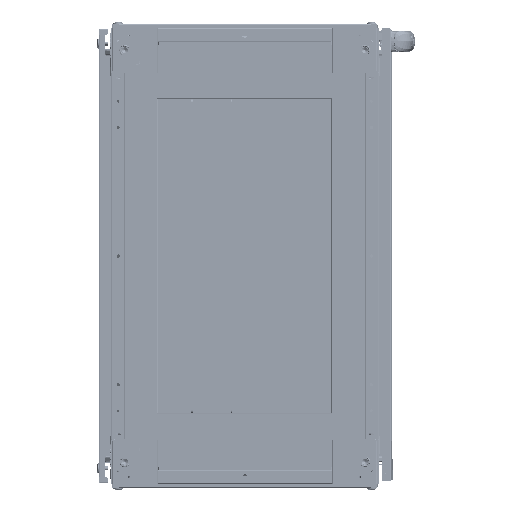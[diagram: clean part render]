
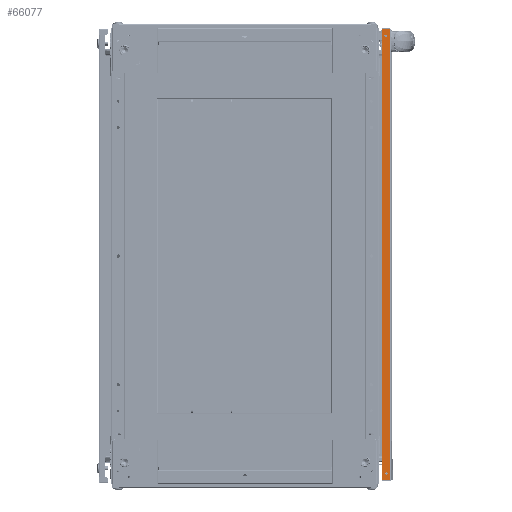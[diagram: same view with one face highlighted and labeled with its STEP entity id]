
A CAD part, front view. The second image highlights one B-rep face of the part: STEP entity #66077.
In plain terms, the highlighted planar face has unit normal (0, -1, 0) as drawn and (-1, 0, 0) by its records, which use the part's own axes.
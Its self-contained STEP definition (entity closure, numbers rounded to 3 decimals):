
#16659 = ORIENTED_EDGE ( 'NONE', *, *, #378992, .T. ) ;
#18251 = DIRECTION ( 'NONE',  ( 1., 0., 0. ) ) ;
#22598 = CIRCLE ( 'NONE', #204329, 2.3 ) ;
#50432 = EDGE_LOOP ( 'NONE', ( #268592, #16659, #525516, #350522 ) ) ;
#51287 = CARTESIAN_POINT ( 'NONE',  ( -2.01, 16., -788. ) ) ;
#55265 = AXIS2_PLACEMENT_3D ( 'NONE', #440433, #340684, #447398 ) ;
#55310 = EDGE_CURVE ( 'NONE', #383744, #629963, #361877, .T. ) ;
#56574 = DIRECTION ( 'NONE',  ( 1., 0., 0. ) ) ;
#59369 = LINE ( 'NONE', #62881, #394313 ) ;
#61238 = CARTESIAN_POINT ( 'NONE',  ( -2.01, 16., -788. ) ) ;
#62881 = CARTESIAN_POINT ( 'NONE',  ( -2.01, 2.01, -788. ) ) ;
#66077 = ADVANCED_FACE ( 'NONE', ( #428239, #321480, #538383 ), #271593, .F. ) ;
#77193 = CARTESIAN_POINT ( 'NONE',  ( -2.01, 9., -774.7 ) ) ;
#79347 = DIRECTION ( 'NONE',  ( 0., 1., 0. ) ) ;
#80261 = VERTEX_POINT ( 'NONE', #77193 ) ;
#96710 = AXIS2_PLACEMENT_3D ( 'NONE', #51287, #488551, #79347 ) ;
#97296 = VERTEX_POINT ( 'NONE', #300603 ) ;
#97441 = DIRECTION ( 'NONE',  ( 0., 1., 0. ) ) ;
#113261 = CARTESIAN_POINT ( 'NONE',  ( -2.01, 2.01, 0. ) ) ;
#113476 = DIRECTION ( 'NONE',  ( 0., 0., -1. ) ) ;
#121232 = EDGE_CURVE ( 'NONE', #97296, #336537, #665474, .T. ) ;
#145278 = AXIS2_PLACEMENT_3D ( 'NONE', #373182, #56574, #113476 ) ;
#146056 = CARTESIAN_POINT ( 'NONE',  ( -2.01, 9., -777. ) ) ;
#146393 = VECTOR ( 'NONE', #178385, 1000. ) ;
#150767 = CARTESIAN_POINT ( 'NONE',  ( -2.01, 16., 0. ) ) ;
#162077 = LINE ( 'NONE', #496189, #164662 ) ;
#164662 = VECTOR ( 'NONE', #645740, 1000. ) ;
#176508 = DIRECTION ( 'NONE',  ( 0., 0., -1. ) ) ;
#178385 = DIRECTION ( 'NONE',  ( 0., 0., -1. ) ) ;
#179404 = ORIENTED_EDGE ( 'NONE', *, *, #420813, .T. ) ;
#192821 = VERTEX_POINT ( 'NONE', #348719 ) ;
#203026 = CARTESIAN_POINT ( 'NONE',  ( -2.01, 9., -13.3 ) ) ;
#204329 = AXIS2_PLACEMENT_3D ( 'NONE', #661857, #18251, #398580 ) ;
#247180 = CIRCLE ( 'NONE', #552170, 2.3 ) ;
#267863 = ORIENTED_EDGE ( 'NONE', *, *, #55310, .T. ) ;
#268592 = ORIENTED_EDGE ( 'NONE', *, *, #452891, .F. ) ;
#271593 = PLANE ( 'NONE',  #96710 ) ;
#281403 = EDGE_CURVE ( 'NONE', #608344, #80261, #22598, .T. ) ;
#300603 = CARTESIAN_POINT ( 'NONE',  ( -2.01, 16., 0. ) ) ;
#313000 = DIRECTION ( 'NONE',  ( 0., 0., -1. ) ) ;
#321480 = FACE_BOUND ( 'NONE', #583141, .T. ) ;
#330367 = VERTEX_POINT ( 'NONE', #113261 ) ;
#336537 = VERTEX_POINT ( 'NONE', #699545 ) ;
#340684 = DIRECTION ( 'NONE',  ( 1., 0., 0. ) ) ;
#348719 = CARTESIAN_POINT ( 'NONE',  ( -2.01, 2.01, -788. ) ) ;
#350522 = ORIENTED_EDGE ( 'NONE', *, *, #409759, .T. ) ;
#352165 = ORIENTED_EDGE ( 'NONE', *, *, #372393, .T. ) ;
#354262 = EDGE_LOOP ( 'NONE', ( #641066, #352165 ) ) ;
#361877 = CIRCLE ( 'NONE', #55265, 2.3 ) ;
#369505 = CARTESIAN_POINT ( 'NONE',  ( -2.01, 9., -779.3 ) ) ;
#372393 = EDGE_CURVE ( 'NONE', #80261, #608344, #247180, .T. ) ;
#373182 = CARTESIAN_POINT ( 'NONE',  ( -2.01, 9., -11. ) ) ;
#378992 = EDGE_CURVE ( 'NONE', #330367, #97296, #687635, .T. ) ;
#383744 = VERTEX_POINT ( 'NONE', #665521 ) ;
#394313 = VECTOR ( 'NONE', #176508, 1000. ) ;
#398580 = DIRECTION ( 'NONE',  ( 0., 0., -1. ) ) ;
#409759 = EDGE_CURVE ( 'NONE', #336537, #192821, #162077, .T. ) ;
#420813 = EDGE_CURVE ( 'NONE', #629963, #383744, #451681, .T. ) ;
#428239 = FACE_BOUND ( 'NONE', #354262, .T. ) ;
#440433 = CARTESIAN_POINT ( 'NONE',  ( -2.01, 9., -11. ) ) ;
#447398 = DIRECTION ( 'NONE',  ( 0., 0., -1. ) ) ;
#451681 = CIRCLE ( 'NONE', #145278, 2.3 ) ;
#452891 = EDGE_CURVE ( 'NONE', #330367, #192821, #59369, .T. ) ;
#488551 = DIRECTION ( 'NONE',  ( 1., 0., 0. ) ) ;
#496189 = CARTESIAN_POINT ( 'NONE',  ( -2.01, 16., -788. ) ) ;
#525516 = ORIENTED_EDGE ( 'NONE', *, *, #121232, .T. ) ;
#538383 = FACE_OUTER_BOUND ( 'NONE', #50432, .T. ) ;
#552170 = AXIS2_PLACEMENT_3D ( 'NONE', #146056, #689938, #313000 ) ;
#583141 = EDGE_LOOP ( 'NONE', ( #179404, #267863 ) ) ;
#598226 = VECTOR ( 'NONE', #97441, 1000. ) ;
#608344 = VERTEX_POINT ( 'NONE', #369505 ) ;
#629963 = VERTEX_POINT ( 'NONE', #203026 ) ;
#641066 = ORIENTED_EDGE ( 'NONE', *, *, #281403, .T. ) ;
#645740 = DIRECTION ( 'NONE',  ( 0., -1., 0. ) ) ;
#661857 = CARTESIAN_POINT ( 'NONE',  ( -2.01, 9., -777. ) ) ;
#665474 = LINE ( 'NONE', #61238, #146393 ) ;
#665521 = CARTESIAN_POINT ( 'NONE',  ( -2.01, 9., -8.7 ) ) ;
#687635 = LINE ( 'NONE', #150767, #598226 ) ;
#689938 = DIRECTION ( 'NONE',  ( 1., 0., 0. ) ) ;
#699545 = CARTESIAN_POINT ( 'NONE',  ( -2.01, 16., -788. ) ) ;
